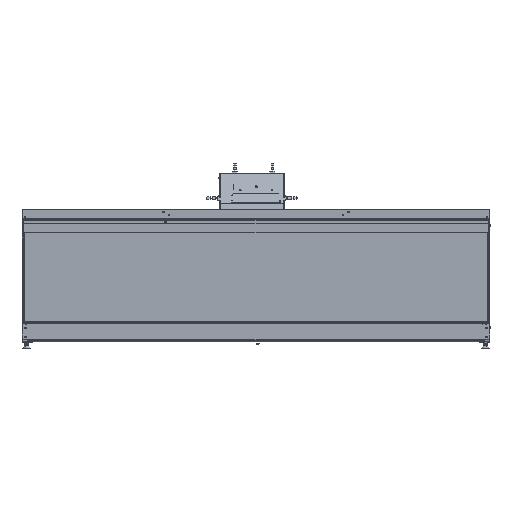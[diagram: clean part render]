
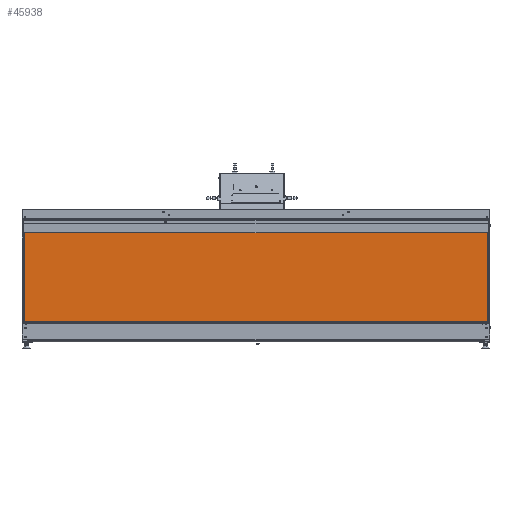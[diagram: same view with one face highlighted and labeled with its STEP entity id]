
A CAD part, top view. The second image highlights one B-rep face of the part: STEP entity #45938.
In plain terms, the highlighted planar face has unit normal (0, 0, 1).
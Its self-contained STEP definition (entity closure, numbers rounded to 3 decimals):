
#851 = ORIENTED_EDGE ( 'NONE', *, *, #24356, .F. ) ;
#8644 = CARTESIAN_POINT ( 'NONE',  ( -641.344, 1270.211, 2016.17 ) ) ;
#11020 = CARTESIAN_POINT ( 'NONE',  ( 1252.656, 1638.211, 2016.17 ) ) ;
#13332 = CARTESIAN_POINT ( 'NONE',  ( -641.344, 762.211, 2016.17 ) ) ;
#13711 = CARTESIAN_POINT ( 'NONE',  ( -641.344, 1638.211, 2016.17 ) ) ;
#14866 = ORIENTED_EDGE ( 'NONE', *, *, #25140, .T. ) ;
#16736 = LINE ( 'NONE', #50736, #72856 ) ;
#19611 = LINE ( 'NONE', #13332, #45724 ) ;
#19725 = LINE ( 'NONE', #30453, #61173 ) ;
#21901 = FACE_OUTER_BOUND ( 'NONE', #40944, .T. ) ;
#24356 = EDGE_CURVE ( 'NONE', #54945, #53918, #56504, .T. ) ;
#25140 = EDGE_CURVE ( 'NONE', #54945, #25337, #16736, .T. ) ;
#25337 = VERTEX_POINT ( 'NONE', #13711 ) ;
#27265 = CARTESIAN_POINT ( 'NONE',  ( 1252.656, 762.211, 2016.17 ) ) ;
#27819 = PLANE ( 'NONE',  #43937 ) ;
#30453 = CARTESIAN_POINT ( 'NONE',  ( 305.656, 1270.211, 2016.17 ) ) ;
#31475 = VECTOR ( 'NONE', #49801, 1000. ) ;
#34413 = EDGE_CURVE ( 'NONE', #25337, #49938, #19611, .T. ) ;
#39299 = CARTESIAN_POINT ( 'NONE',  ( 305.656, 762.211, 2016.17 ) ) ;
#40944 = EDGE_LOOP ( 'NONE', ( #55415, #44240, #851, #14866 ) ) ;
#43937 = AXIS2_PLACEMENT_3D ( 'NONE', #39299, #66641, #44438 ) ;
#44240 = ORIENTED_EDGE ( 'NONE', *, *, #52991, .T. ) ;
#44438 = DIRECTION ( 'NONE',  ( 1., 0., 0. ) ) ;
#45724 = VECTOR ( 'NONE', #58822, 1000. ) ;
#45938 = ADVANCED_FACE ( 'NONE', ( #21901 ), #27819, .T. ) ;
#49801 = DIRECTION ( 'NONE',  ( 0., -1., 0. ) ) ;
#49938 = VERTEX_POINT ( 'NONE', #8644 ) ;
#50736 = CARTESIAN_POINT ( 'NONE',  ( 305.656, 1638.211, 2016.17 ) ) ;
#52991 = EDGE_CURVE ( 'NONE', #49938, #53918, #19725, .T. ) ;
#53012 = DIRECTION ( 'NONE',  ( 1., 0., 0. ) ) ;
#53482 = CARTESIAN_POINT ( 'NONE',  ( 1252.656, 1270.211, 2016.17 ) ) ;
#53918 = VERTEX_POINT ( 'NONE', #53482 ) ;
#54945 = VERTEX_POINT ( 'NONE', #11020 ) ;
#55415 = ORIENTED_EDGE ( 'NONE', *, *, #34413, .T. ) ;
#56504 = LINE ( 'NONE', #27265, #31475 ) ;
#58822 = DIRECTION ( 'NONE',  ( 0., -1., 0. ) ) ;
#61173 = VECTOR ( 'NONE', #53012, 1000. ) ;
#66641 = DIRECTION ( 'NONE',  ( 0., 0., 1. ) ) ;
#72184 = DIRECTION ( 'NONE',  ( -1., 0., 0. ) ) ;
#72856 = VECTOR ( 'NONE', #72184, 1000. ) ;
